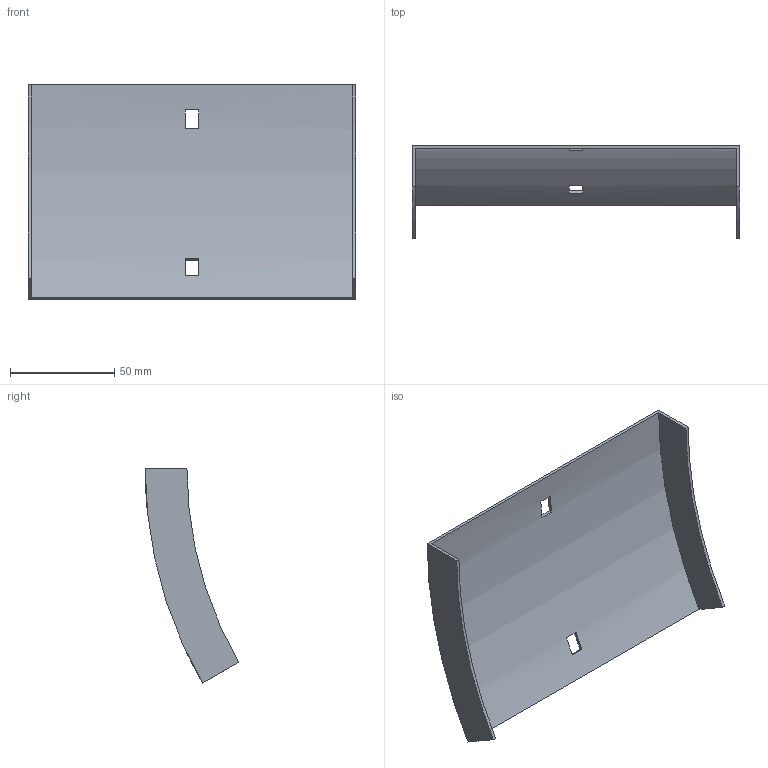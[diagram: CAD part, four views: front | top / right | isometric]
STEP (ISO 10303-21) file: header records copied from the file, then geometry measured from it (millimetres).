
FILE_DESCRIPTION (( 'STEP AP214' ), '1' );
FILE_NAME ('35N1D150.step', '2025-02-21T09:10:56', ( '' ), ( '' ), 'SwSTEP 2.0', 'SolidWorks 2023', '' );
FILE_SCHEMA (( 'AUTOMOTIVE_DESIGN' ));
Length unit declared in the file: millimetre
Products named in the file (1): 35N1D150
Bounding box: 157 x 44.85 x 102.75 mm (x, y, z)
Volume: 30730.5 mm3; surface area: 41941.9 mm2
Topology: 1 solids, 1 shells, 18 faces, 48 edges, 32 vertices
Faces by surface type: plane 14, cylinder 4
Entity records: 599 total; most frequent: DIRECTION 102, CARTESIAN_POINT 99, ORIENTED_EDGE 96, EDGE_CURVE 48, AXIS2_PLACEMENT_3D 35, VERTEX_POINT 32, LINE 32, VECTOR 32
